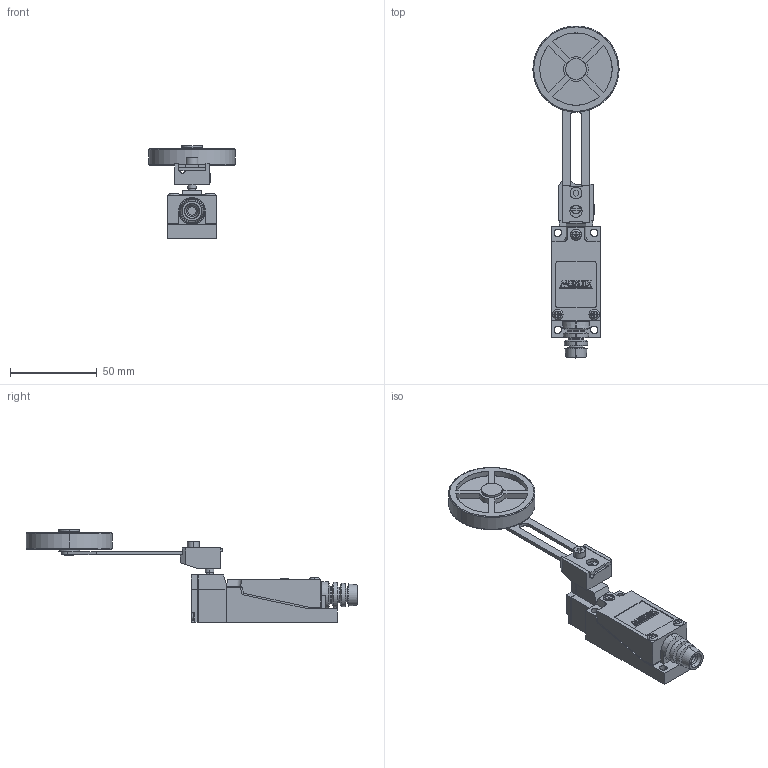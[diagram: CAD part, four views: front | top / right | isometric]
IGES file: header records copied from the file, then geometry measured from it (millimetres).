
Start section: SolidWorks IGES file using analytic representation for surfaces
Global section: file name: D:\X - Arquivos\PROEX\Empresas\P11 - METALTEX\01 - Produtos\IGES\4ª remessa\6ª etapa\FM8108E.IGS; native system: SolidWorks 2012; preprocessor: SolidWorks 2012; author: Usuario; date: 180620.132104; units: millimetre
Bounding box: 49.7 x 191.59 x 53.65 mm (x, y, z)
Surface area: 25207.5 mm2 (no closed solid volume)
Topology: 0 solids, 0 shells, 505 faces, 5015 edges, 5015 vertices
Faces by surface type: bspline 386, revolution 119
